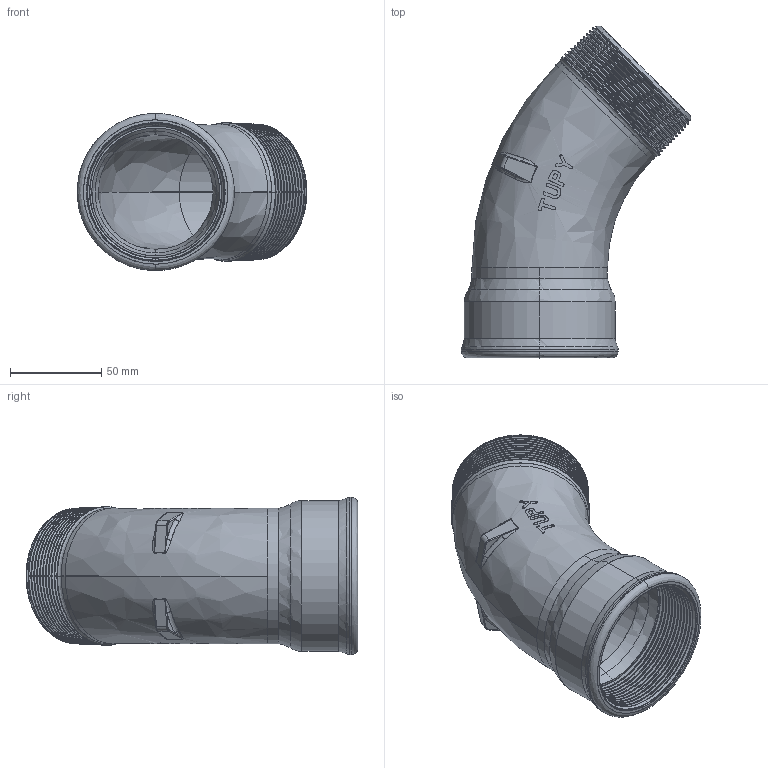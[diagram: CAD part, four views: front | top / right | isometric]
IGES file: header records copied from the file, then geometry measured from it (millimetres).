
Start section: SolidWorks IGES file using analytic representation for surfaces
Global section: file name: C:\Users\Joel Rosa\Desktop\Tubulação\12-27-OK\12-27-011.IGS; native system: SolidWorks 2011; preprocessor: SolidWorks 2011; author: Joel Rosa; date: 131025.230918; units: millimetre
Bounding box: 125.73 x 181.73 x 86 mm (x, y, z)
Surface area: 89119.2 mm2 (no closed solid volume)
Topology: 0 solids, 0 shells, 412 faces, 3649 edges, 3649 vertices
Faces by surface type: bspline 290, revolution 122
